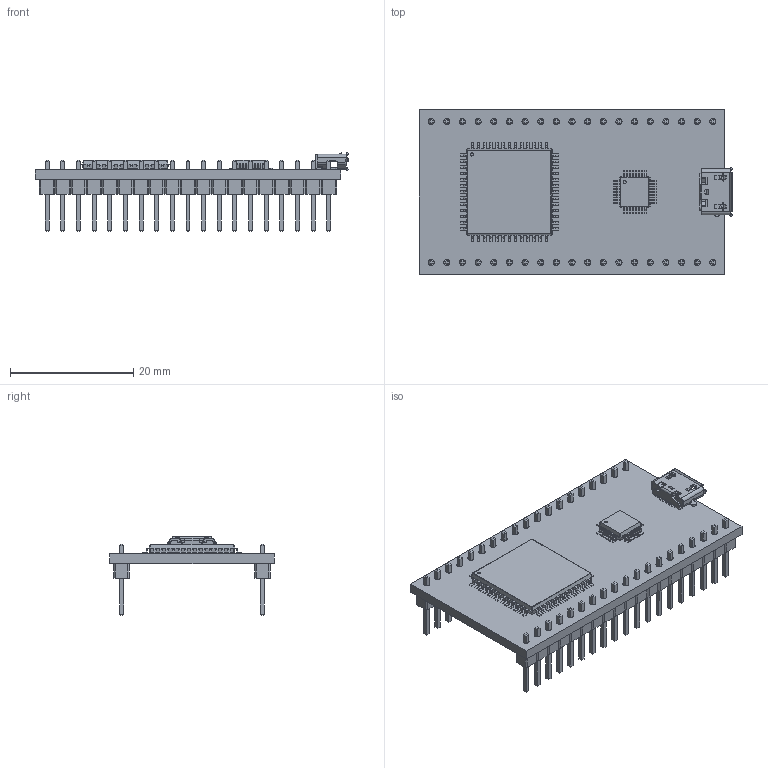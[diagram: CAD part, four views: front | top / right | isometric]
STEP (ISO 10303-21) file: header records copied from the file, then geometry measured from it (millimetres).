
FILE_DESCRIPTION(('KiCad electronic assembly'),'2;1');
FILE_NAME('ESP32-38pin.step','2024-08-12T17:22:36',('Pcbnew'),('Kicad'), 'Open CASCADE STEP processor 7.7','KiCad to STEP converter','Unknown' );
FILE_SCHEMA(('AUTOMOTIVE_DESIGN { 1 0 10303 214 1 1 1 1 }'));
Length unit declared in the file: millimetre
Products named in the file (10): ESP32-38pin 1; LQFP-52_14x14mm_P1mm; LQFP_52_14x14mm_P1mm; LQFP-32_5x5mm_P0.5mm; LQFP_32_5x5mm_P05mm; PinHeader_1x19_P2.54mm_Vertical; PinHeader_1x19_P254mm_Vertical; USB_Micro-B_Molex_47346-0001; ESP32-38pin PCB
Assembly tree (10 placements, depth 3):
  ESP32-38pin 1
    LQFP-52_14x14mm_P1mm
      LQFP_52_14x14mm_P1mm
    LQFP-32_5x5mm_P0.5mm
      LQFP_32_5x5mm_P05mm
    PinHeader_1x19_P2.54mm_Vertical  x2
      PinHeader_1x19_P254mm_Vertical
    USB_Micro-B_Molex_47346-0001
      USB_Micro-B_Molex_47346-0001
    ESP32-38pin PCB
Bounding box: 50.83 x 26.67 x 12.74 mm (x, y, z)
Volume: 3162.3 mm3; surface area: 5805.6 mm2
Topology: 6 solids, 6 shells, 2788 faces, 7400 edges, 4682 vertices
Faces by surface type: plane 2143, cylinder 501, bspline 140, sphere 4
Full cylindrical faces by diameter (mm): 0.5 x2, 1 x38
Entity records: 173425 total; most frequent: CARTESIAN_POINT 32179, DIRECTION 23083, LINE 16081, VECTOR 16081, ORIENTED_EDGE 12576, PCURVE 12576, DEFINITIONAL_REPRESENTATION 12576, EDGE_CURVE 6288
